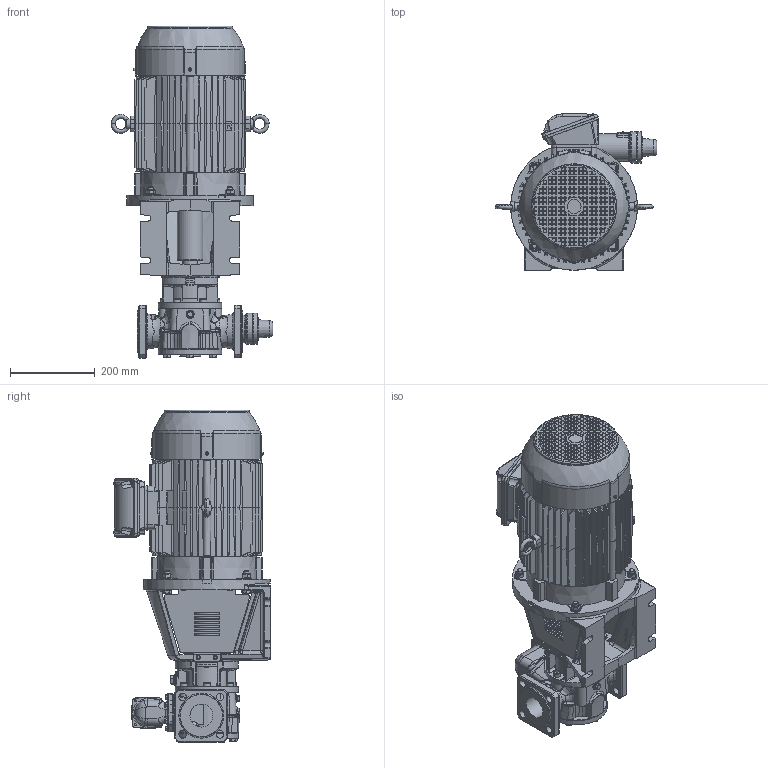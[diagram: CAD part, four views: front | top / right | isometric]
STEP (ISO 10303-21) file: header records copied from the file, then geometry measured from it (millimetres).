
FILE_DESCRIPTION(/* description */ (''),/* implementation_level */ '2;1');
FILE_NAME(/* name */ 'C:\V\JPP\Designs\GEAR PUMPS\PRODUCT ENGINEERING\EUROPE\TG BLOC\TG BLOC_15-50_G2_O_RV1-_132M-STEP.stp',/* time_stamp */ '2021-03-17T09:14:15+01:00',/* author */ ('A77THR'),/* organization */ (''),/* preprocessor_version */ 'ST-DEVELOPER v18.1',/* originating_system */ 'Autodesk Inventor 2020',/* authorisation */ '');
FILE_SCHEMA (('AUTOMOTIVE_DESIGN { 1 0 10303 214 3 1 1 }'));
Products named in the file (1): TG BLOC_15-50_G2_O_RV1-_132M
Bounding box: 383 x 370.15 x 785.8 mm (x, y, z)
Volume: 27068013.1 mm3; surface area: 1598801 mm2
Topology: 1 solids, 1 shells, 5293 faces, 13499 edges, 8544 vertices
Faces by surface type: plane 3009, bspline 909, cylinder 743, cone 407, torus 174, sphere 51
Full cylindrical faces by diameter (mm): 4 x1, 4.5 x4, 4.917 x4, 5 x6, 5.459 x16, 6 x19, 6.647 x1, 7 x16, 8.376 x5, 8.5 x2, 8.7 x16, 9.188 x4, 10 x12, 10.5 x1, 11.445 x2, 11.5 x4, 12 x9, 13 x4, 15.011 x3, 15.4 x10, 16 x10, 17.2 x4, 17.9 x3, 18 x11, 19 x3, 21.939 x1, 25.9 x1, 26 x1, 27.9 x1, 28 x1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
Entity records: 216688 total; most frequent: CARTESIAN_POINT 90961, ORIENTED_EDGE 26810, DIRECTION 22513, EDGE_CURVE 13405, VERTEX_POINT 8544, AXIS2_PLACEMENT_3D 7675, LINE 7163, VECTOR 7163
